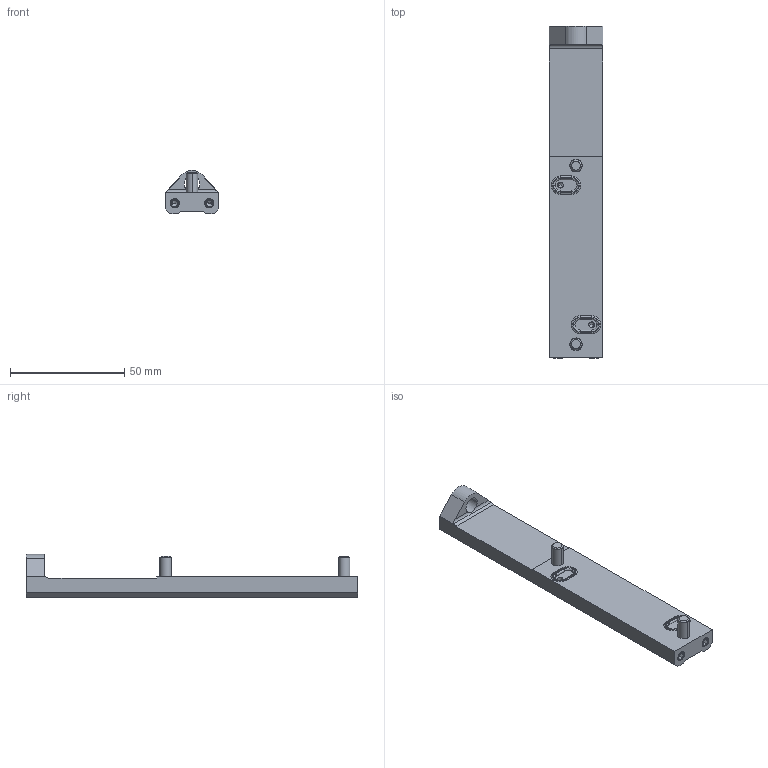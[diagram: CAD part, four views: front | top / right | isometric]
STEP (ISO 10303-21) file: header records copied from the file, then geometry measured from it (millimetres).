
FILE_DESCRIPTION((''),'2;1');
FILE_NAME('V:\CAD\Inventor-Stp\Linearelemente\Schienenführungen\LES 16 neue Nummern\stp\4000001.stp','2006-03-13T08:00:25',('is'),(''),'Autodesk Inventor 8','Autodesk Inventor 8','');
FILE_SCHEMA(('AUTOMOTIVE_DESIGN { 1 0 10303 214 1 1 1 1 }'));
Length unit declared in the file: millimetre
Products named in the file (1): 4000001
Bounding box: 23.3 x 145 x 18.83 mm (x, y, z)
Volume: 24872.9 mm3; surface area: 14963.3 mm2
Topology: 1 solids, 1 shells, 208 faces, 515 edges, 308 vertices
Faces by surface type: plane 65, bspline 48, cylinder 39, torus 36, cone 20
Entity records: 6921 total; most frequent: CARTESIAN_POINT 2111, DIRECTION 1023, ORIENTED_EDGE 1006, EDGE_CURVE 503, AXIS2_PLACEMENT_3D 400, VERTEX_POINT 308, EDGE_LOOP 237, CIRCLE 235
